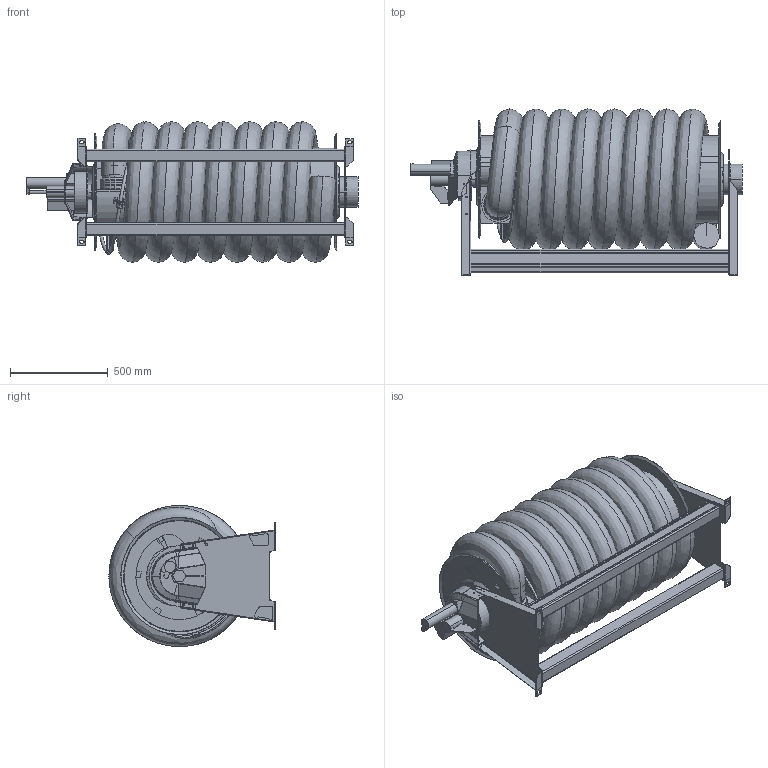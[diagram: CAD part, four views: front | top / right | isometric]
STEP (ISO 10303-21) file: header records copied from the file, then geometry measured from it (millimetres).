
FILE_DESCRIPTION((''),'2;1');
FILE_NAME('ASEM_125_125-15','2022-04-20T15:20:02',('Tomas Bellgran'),(''),'CREO PARAMETRIC BY PTC INC, 2018260','CREO PARAMETRIC BY PTC INC, 2018260','');
FILE_SCHEMA(('AUTOMOTIVE_DESIGN { 1 0 10303 214 1 1 1 1 }'));
Products named in the file (27): 110534; 110536; 110803; 111736; 111735; 110563; 112850; 110528; 110593; 110653; G_ASE_DUMMY; 124129; G_ASL-EVO_150CON_BRACKET; GUIDE_125; 110660; 124297; ASEM_DRUM_125_125; HOSE_125_125_15; 143740; 143700; 143550; 144299; 143702; 144230; 111192_NEW; 104504_L; ASEM_125_125-15
Assembly tree (30 placements, depth 4):
  ASEM_125_125-15
    110563
      110534
      110536
      110803  x2
      111736
      111735
    112850  x2
    ASEM_DRUM_125_125
      110528  x2
      110593
      110653
      G_ASL-EVO_150CON_BRACKET
        G_ASE_DUMMY
        124129
      GUIDE_125
      110660  x2
      124297
    HOSE_125_125_15
    104504_L
      143740
      143702
        143700
        143550
        144299
      144230
      111192_NEW
Bounding box: 1702 x 851.49 x 722.98 mm (x, y, z)
Volume: 421588521 mm3; surface area: 16578273.1 mm2
Topology: 25 solids, 29 shells, 1071 faces, 2509 edges, 1506 vertices
Faces by surface type: plane 548, cylinder 334, bspline 85, torus 72, cone 32
Entity records: 61020 total; most frequent: CARTESIAN_POINT 25216, DIRECTION 4708, ORIENTED_EDGE 4130, EDGE_CURVE 2071, AXIS2_PLACEMENT_3D 1684, PRESENTATION_STYLE_ASSIGNMENT 1681, STYLED_ITEM 1680, CURVE_STYLE 1447
